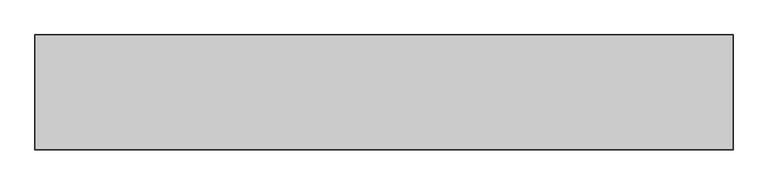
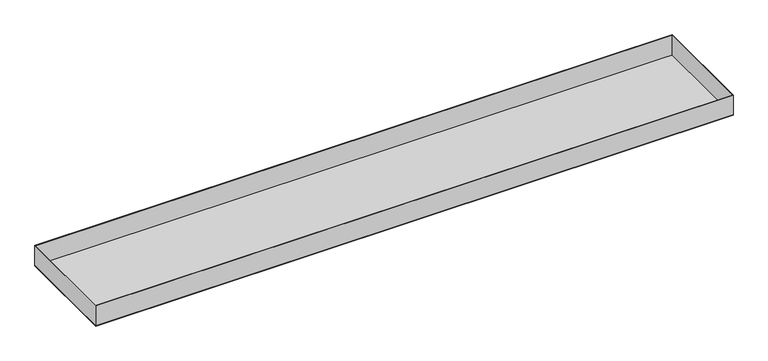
"""IFC4 building model written with IfcOpenShell, lengths in millimetres: proxy geometry, durlum_S4_panel : durlum_S4_panel_wall_width_cut."""

from ifc_helpers import new_model, si_unit, frame, origin, origin_with_axes, place, context, project, spatial, polyline, outline, extrude, source, transform, mapped, element, save


def generic_models_f96a42b3(model_context):
    return source(origin(), model_context, "Body", "SweptSolid", [
        extrude(outline(polyline([(599.0, 99.0), (599.0, -99.0), (-599.0, -99.0), (-599.0, 99.0), (599.0, 99.0)]), holes=[polyline([(598.0, 98.0), (-598.0, 98.0), (-598.0, -98.0), (598.0, -98.0), (598.0, 98.0)])]), frame((0.0, 0.0, 1.0), z_axis=(0.0, 0.0, 1.0), x_axis=(1.0, 0.0, 0.0)), (0.0, 0.0, 1.0), 39.0),
        extrude(outline(polyline([(599.0, 99.0), (599.0, -99.0), (-599.0, -99.0), (-599.0, 99.0), (599.0, 99.0)])), origin_with_axes(), (0.0, 0.0, 1.0), 1.0),
    ])


if __name__ == "__main__":
    model = new_model("IFC4")
    model_context = context("Model", 3, world=origin())
    ifc_project = project(units=[si_unit("LENGTHUNIT", "METRE", prefix="MILLI")], contexts=[model_context])
    site = spatial("IfcSite", under=ifc_project)
    building = spatial("IfcBuilding", under=site)
    placement = place(None, origin())
    generic_models_shape = generic_models_f96a42b3(model_context)
    element("IfcBuildingElementProxy", 1, Name="durlum_S4_panel : durlum_S4_panel_wall_width_cut", ObjectType="durlum_S4_panel : durlum_S4_panel_wall_width_cut", at=placement, inside=building, context=model_context, shape_type="MappedRepresentation", body=[
        mapped(generic_models_shape, transform((0.0, 0.0, 0.0), x_axis=(1.0, 0.0, 0.0), y_axis=(0.0, 1.0, 0.0), z_axis=(0.0, 0.0, 1.0))),
    ])
    save(model, "model.ifc")
